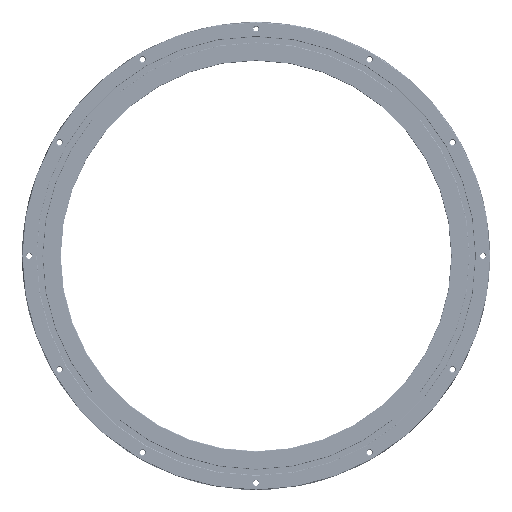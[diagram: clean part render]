
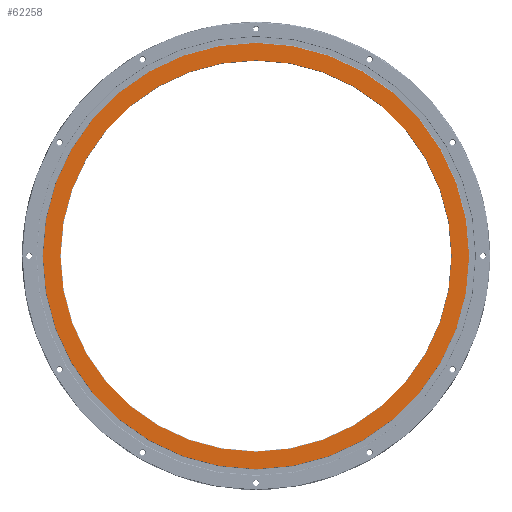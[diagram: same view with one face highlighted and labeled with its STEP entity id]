
A CAD part, top view. The second image highlights one B-rep face of the part: STEP entity #62258.
In plain terms, the highlighted planar face has unit normal (0, 0, 1).
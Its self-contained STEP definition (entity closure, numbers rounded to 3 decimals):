
#7563 = ORIENTED_EDGE ( 'NONE', *, *, #200035, .T. ) ;
#12750 = DIRECTION ( 'NONE',  ( -1., 0., 0. ) ) ;
#22462 = CARTESIAN_POINT ( 'NONE',  ( 0., 0., 36. ) ) ;
#30349 = FACE_OUTER_BOUND ( 'NONE', #173533, .T. ) ;
#31290 = DIRECTION ( 'NONE',  ( -1., 0., 0. ) ) ;
#32146 = CIRCLE ( 'NONE', #128306, 90.2 ) ;
#32819 = DIRECTION ( 'NONE',  ( 0., 0., -1. ) ) ;
#40695 = ORIENTED_EDGE ( 'NONE', *, *, #46474, .T. ) ;
#46474 = EDGE_CURVE ( 'NONE', #149168, #65036, #88624, .T. ) ;
#53056 = ORIENTED_EDGE ( 'NONE', *, *, #236266, .T. ) ;
#54271 = ORIENTED_EDGE ( 'NONE', *, *, #95245, .T. ) ;
#62258 = ADVANCED_FACE ( 'NONE', ( #125865, #30349 ), #222722, .F. ) ;
#65036 = VERTEX_POINT ( 'NONE', #110942 ) ;
#65324 = DIRECTION ( 'NONE',  ( 0., 0., -1. ) ) ;
#70983 = DIRECTION ( 'NONE',  ( 0., 0., -1. ) ) ;
#81551 = DIRECTION ( 'NONE',  ( -1., 0., 0. ) ) ;
#88624 = CIRCLE ( 'NONE', #140806, 98.21 ) ;
#89783 = DIRECTION ( 'NONE',  ( -1., 0., 0. ) ) ;
#91057 = CIRCLE ( 'NONE', #239161, 90.2 ) ;
#92243 = DIRECTION ( 'NONE',  ( 0., 0., 1. ) ) ;
#95245 = EDGE_CURVE ( 'NONE', #65036, #149168, #107043, .T. ) ;
#100945 = CARTESIAN_POINT ( 'NONE',  ( -90.2, 0., 36. ) ) ;
#107043 = CIRCLE ( 'NONE', #247598, 98.21 ) ;
#110942 = CARTESIAN_POINT ( 'NONE',  ( 98.21, 0., 36. ) ) ;
#118592 = CARTESIAN_POINT ( 'NONE',  ( 90.2, 0., 36. ) ) ;
#125865 = FACE_BOUND ( 'NONE', #225799, .T. ) ;
#126247 = CARTESIAN_POINT ( 'NONE',  ( 0., 0., 36. ) ) ;
#128306 = AXIS2_PLACEMENT_3D ( 'NONE', #202286, #65324, #31290 ) ;
#140806 = AXIS2_PLACEMENT_3D ( 'NONE', #22462, #212322, #81551 ) ;
#149168 = VERTEX_POINT ( 'NONE', #239461 ) ;
#150400 = VERTEX_POINT ( 'NONE', #100945 ) ;
#161798 = AXIS2_PLACEMENT_3D ( 'NONE', #183717, #32819, #12750 ) ;
#173533 = EDGE_LOOP ( 'NONE', ( #40695, #54271 ) ) ;
#183717 = CARTESIAN_POINT ( 'NONE',  ( 0., 0., 36. ) ) ;
#200035 = EDGE_CURVE ( 'NONE', #210097, #150400, #91057, .T. ) ;
#202286 = CARTESIAN_POINT ( 'NONE',  ( 0., 0., 36. ) ) ;
#203011 = DIRECTION ( 'NONE',  ( -1., 0., 0. ) ) ;
#210097 = VERTEX_POINT ( 'NONE', #118592 ) ;
#212322 = DIRECTION ( 'NONE',  ( 0., 0., 1. ) ) ;
#222722 = PLANE ( 'NONE',  #161798 ) ;
#225799 = EDGE_LOOP ( 'NONE', ( #7563, #53056 ) ) ;
#236266 = EDGE_CURVE ( 'NONE', #150400, #210097, #32146, .T. ) ;
#239161 = AXIS2_PLACEMENT_3D ( 'NONE', #243240, #70983, #203011 ) ;
#239461 = CARTESIAN_POINT ( 'NONE',  ( -98.21, 0., 36. ) ) ;
#243240 = CARTESIAN_POINT ( 'NONE',  ( 0., 0., 36. ) ) ;
#247598 = AXIS2_PLACEMENT_3D ( 'NONE', #126247, #92243, #89783 ) ;
